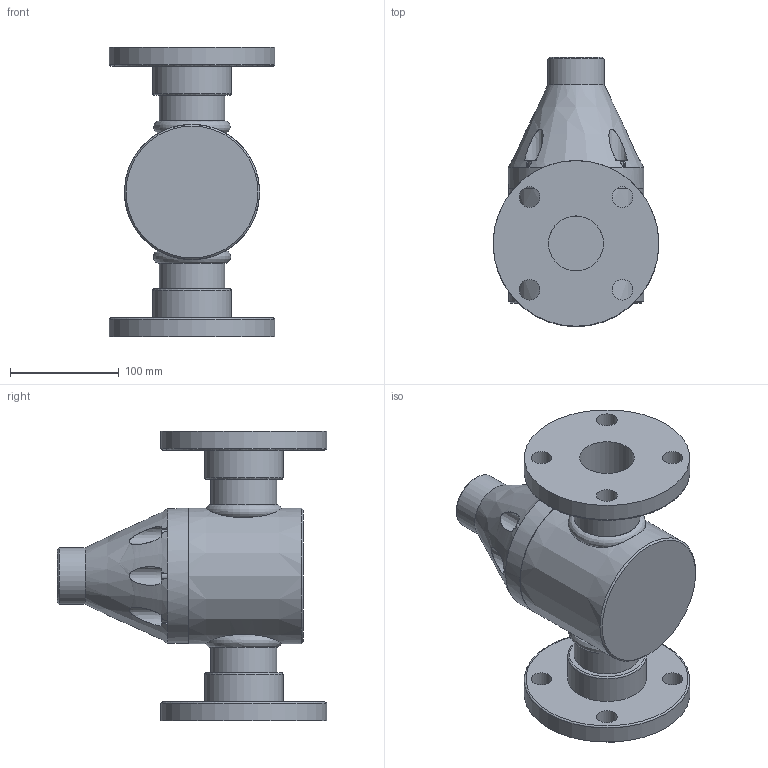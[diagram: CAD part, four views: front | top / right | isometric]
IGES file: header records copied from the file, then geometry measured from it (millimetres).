
Start section: SolidWorks IGES file using analytic representation for surfaces
Global section: file name: F:\Griffco-Valve\Griffco_current-projects\GV_web-files_2015\G Series Flanged\GPR2000-FLNG.IGS; native system: SolidWorks 2014; preprocessor: SolidWorks 2014; author: Dan; date: 160212.041453; units: inch
Bounding box: 152.4 x 247.65 x 266.7 mm (x, y, z)
Surface area: 236237.9 mm2 (no closed solid volume)
Topology: 0 solids, 0 shells, 184 faces, 857 edges, 812 vertices
Faces by surface type: bspline 131, revolution 53
